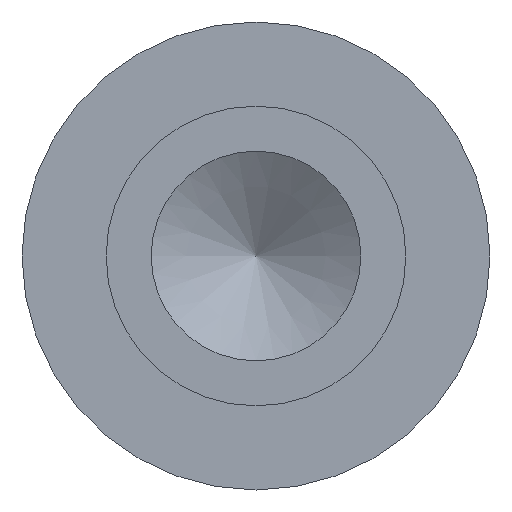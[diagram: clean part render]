
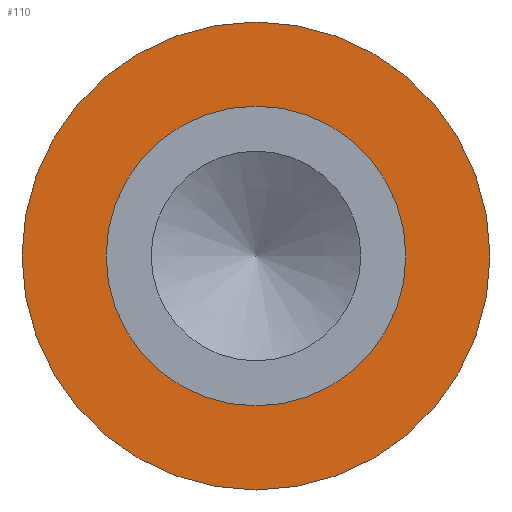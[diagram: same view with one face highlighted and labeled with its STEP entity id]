
A CAD part, left-side view. The second image highlights one B-rep face of the part: STEP entity #110.
In plain terms, the highlighted planar face has unit normal (-1, 0, 0).
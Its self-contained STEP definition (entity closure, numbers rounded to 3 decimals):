
#14=PLANE($,#130);
#21=FACE_BOUND($,#50,.T.);
#37=FACE_OUTER_BOUND($,#49,.T.);
#49=EDGE_LOOP($,(#94));
#50=EDGE_LOOP($,(#95));
#62=CIRCLE($,#128,0.762);
#64=CIRCLE($,#131,1.19);
#71=VERTEX_POINT($,#193);
#73=VERTEX_POINT($,#198);
#80=EDGE_CURVE($,#71,#71,#62,.T.);
#82=EDGE_CURVE($,#73,#73,#64,.T.);
#94=ORIENTED_EDGE($,*,*,#82,.F.);
#95=ORIENTED_EDGE($,*,*,#80,.T.);
#110=ADVANCED_FACE($,(#37,#21),#14,.T.);
#128=AXIS2_PLACEMENT_3D($,#194,#160,#161);
#130=AXIS2_PLACEMENT_3D($,#197,#164,#165);
#131=AXIS2_PLACEMENT_3D($,#199,#166,#167);
#160=DIRECTION('center_axis',(1.,0.,0.));
#161=DIRECTION('ref_axis',(0.,1.,0.));
#164=DIRECTION('center_axis',(-1.,0.,0.));
#165=DIRECTION('ref_axis',(0.,0.,1.));
#166=DIRECTION('center_axis',(1.,0.,0.));
#167=DIRECTION('ref_axis',(0.,1.,0.));
#193=CARTESIAN_POINT('',(3.96,0.762,0.));
#194=CARTESIAN_POINT('Origin',(3.96,0.,0.));
#197=CARTESIAN_POINT('Origin',(3.96,0.976,0.));
#198=CARTESIAN_POINT('',(3.96,1.19,0.));
#199=CARTESIAN_POINT('Origin',(3.96,0.,0.));
